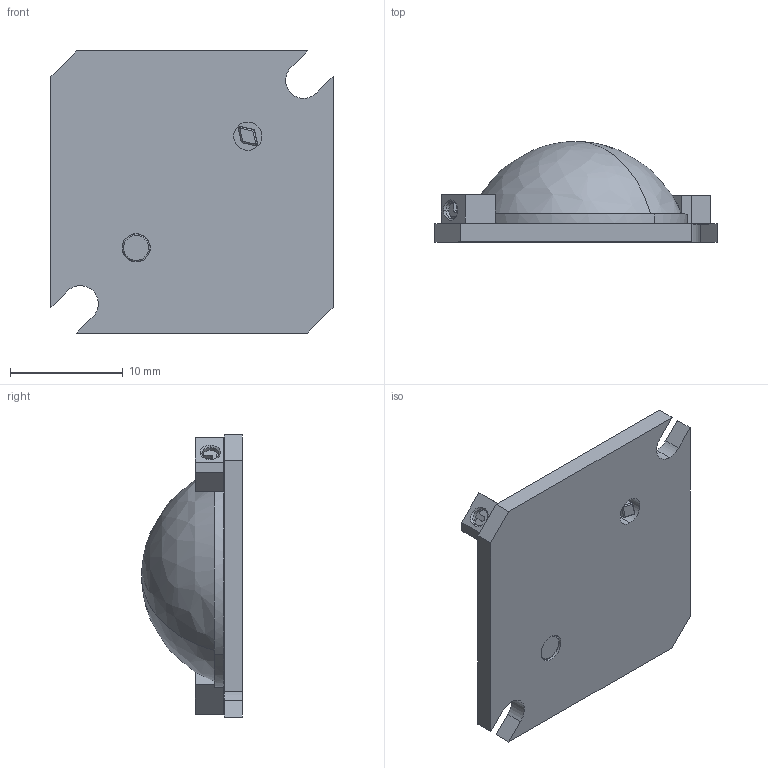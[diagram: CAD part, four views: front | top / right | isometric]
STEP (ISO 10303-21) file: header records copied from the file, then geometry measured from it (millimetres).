
FILE_DESCRIPTION (( 'STEP AP214' ), '1' );
FILE_NAME ('SW-12-carclo.STEP', '2023-11-15T03:44:11', ( '' ), ( '' ), 'SwSTEP 2.0', 'SolidWorks 2021', '' );
FILE_SCHEMA (( 'AUTOMOTIVE_DESIGN' ));
Length unit declared in the file: millimetre
Products named in the file (1): SW-12-carclo
Bounding box: 25 x 8.93 x 25 mm (x, y, z)
Volume: 2165.3 mm3; surface area: 2498.1 mm2
Topology: 7 solids, 7 shells, 670 faces, 1758 edges, 1142 vertices
Faces by surface type: plane 420, cylinder 111, bspline 100, cone 20, sphere 11, torus 8
Entity records: 27552 total; most frequent: CARTESIAN_POINT 8291, ORIENTED_EDGE 3494, DIRECTION 2934, EDGE_CURVE 1747, LINE 1282, VECTOR 1282, VERTEX_POINT 1141, AXIS2_PLACEMENT_3D 826
